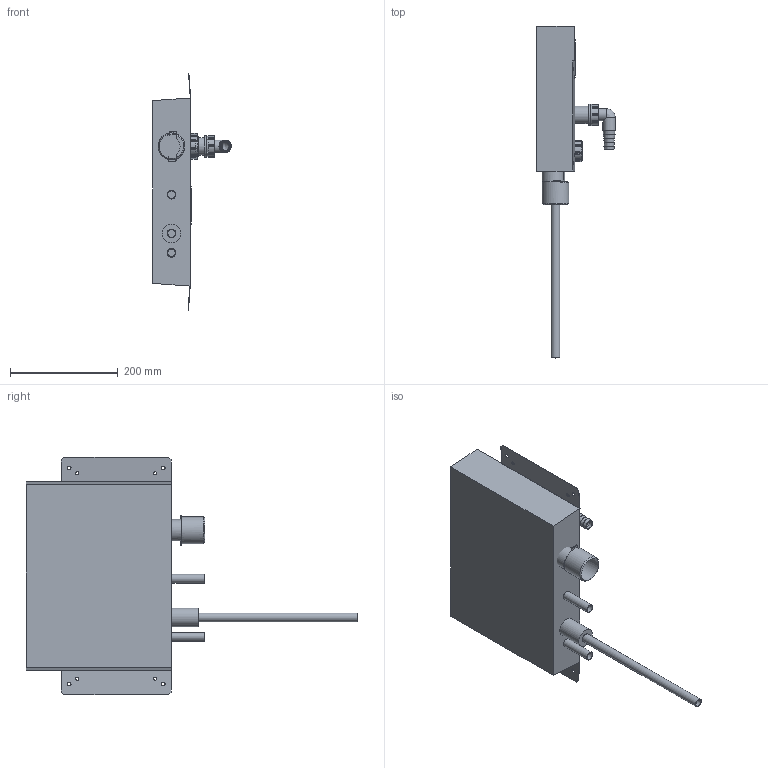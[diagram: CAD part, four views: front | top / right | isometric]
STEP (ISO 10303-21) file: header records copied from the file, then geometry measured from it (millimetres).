
FILE_DESCRIPTION(/* description */ (''),/* implementation_level */ '2;1');
FILE_NAME(/* name */ '\\LG50011\SANHA_Legnica\Engineering\Public\PROJEKTY\SANHA-BOX_Support_BiR\002-Rysunki_Boxów\325WMT16\325WMT16.stp',/* time_stamp */ '2018-11-05T14:36:44+01:00',/* author */ ('gomulka'),/* organization */ (''),/* preprocessor_version */ 'ST-DEVELOPER v16.13',/* originating_system */ 'Autodesk Inventor 2018',/* authorisation */ '');
FILE_SCHEMA (('AUTOMOTIVE_DESIGN { 1 0 10303 214 3 1 1 }'));
Length unit declared in the file: millimetre
Products named in the file (11): 325WMT16; 325WMT16_1; Geratedose; Rura_16x2-krotka; Rura_16x2-bardzo_krotka; KSBMPDW1; króciec-gwintowany; króciec; nakrętka; nakrętka_2; króciec-mimośr
Assembly tree (13 placements, depth 2):
  325WMT16
    325WMT16_1
    Geratedose  x2
    Rura_16x2-krotka
    Rura_16x2-bardzo_krotka  x2
    KSBMPDW1  x2
    króciec-gwintowany
    króciec
    nakrętka
    nakrętka_2
    króciec-mimośr
Bounding box: 146.35 x 617.06 x 441.79 mm (x, y, z)
Volume: 6437107.1 mm3; surface area: 535417.3 mm2
Topology: 13 solids, 13 shells, 432 faces, 1013 edges, 634 vertices
Faces by surface type: plane 339, cylinder 58, bspline 18, torus 10, cone 7
Full cylindrical faces by diameter (mm): 6.1 x4, 7 x4, 14 x3, 15 x1, 16 x7, 18.3 x2, 18.631 x1, 21 x1, 23 x2, 27 x2, 27.5 x1, 30 x2, 32.8 x1, 33 x1, 35 x1, 37.5 x2, 38.5 x1, 40 x2, 46 x1, 50 x1, 53 x1, 63 x1
Entity records: 11248 total; most frequent: CARTESIAN_POINT 2114, DIRECTION 1804, ORIENTED_EDGE 1726, EDGE_CURVE 843, AXIS2_PLACEMENT_3D 607, LINE 590, VECTOR 590, VERTEX_POINT 557
